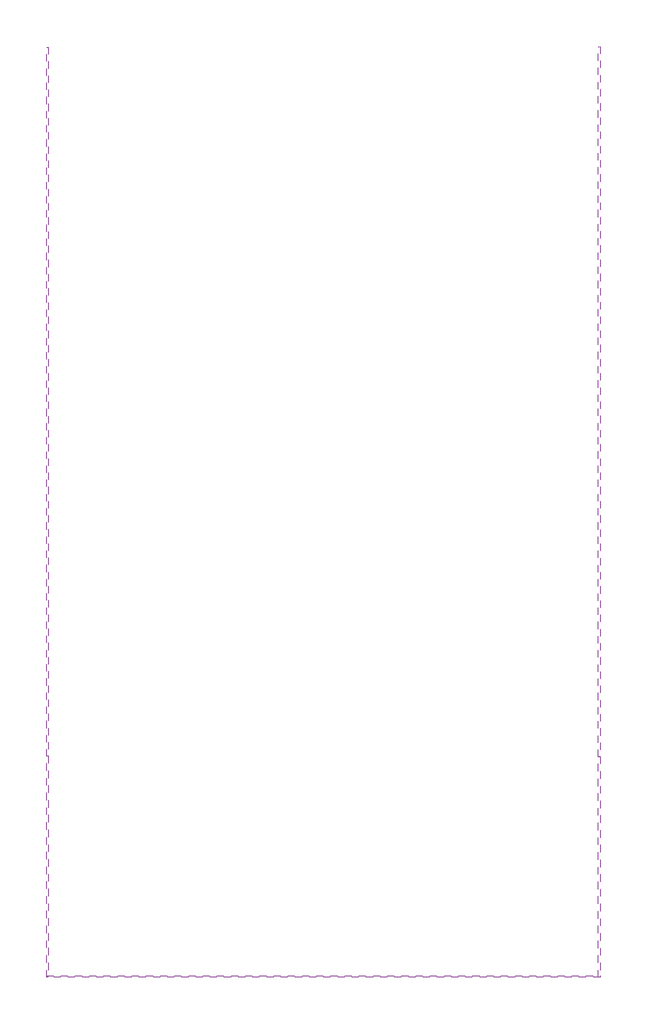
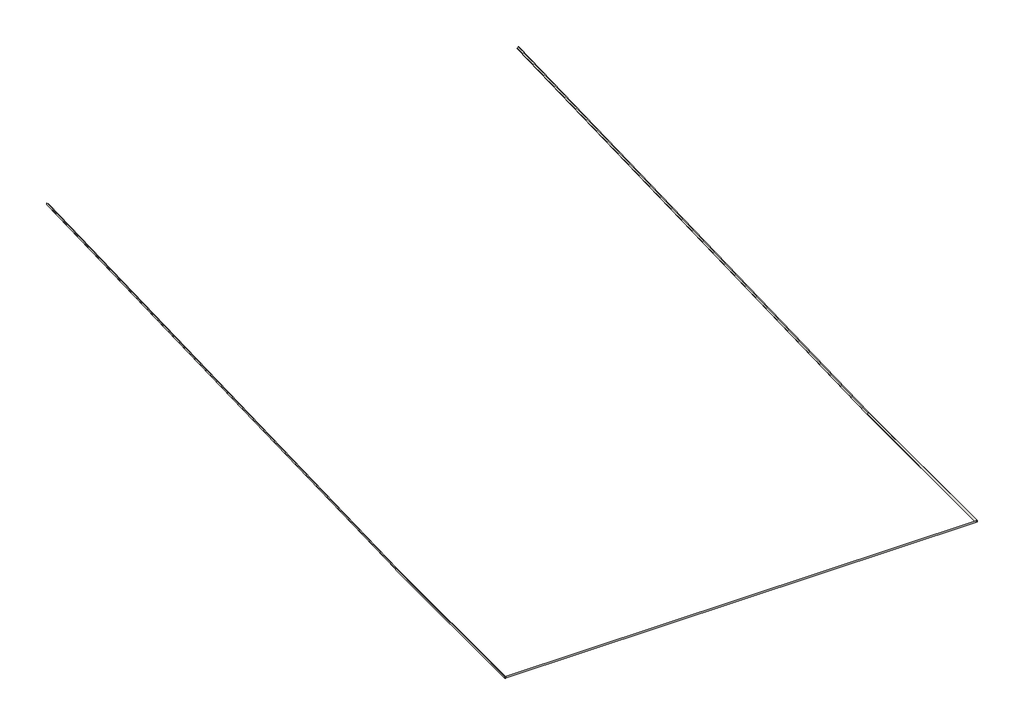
# One storey: 5 slabs.
"""IFC4 building model written with IfcOpenShell, lengths in millimetres."""

from ifc_helpers import new_model, si_unit, origin, place, context, project, spatial, transform, mapped, element, save
from components import pieza_112_aqua_blanco_liso_dd8de30b, pieza_112_aqua_blanco_liso_17d7c7d5, pieza_112_aqua_blanco_liso_f6d43e3e, pieza_112_aqua_blanco_liso_6f53a8a9, pieza_112_aqua_blanco_liso_57a361b8

model = new_model("IFC4")

# Units and contexts
model_context = context("Model", 3, world=origin())
ifc_project = project(units=[si_unit("LENGTHUNIT", "METRE", prefix="MILLI")], contexts=[model_context])

# Site, building, storey
site = spatial("IfcSite", under=ifc_project)
building = spatial("IfcBuilding", under=site)
storey = spatial("IfcBuildingStorey", under=building, Name="4_NFondo2P1 -3.3", Elevation=-3300.0)

# Slabs
placement = place(None, origin())
pieza_112_aqua_blanco_liso_shape = pieza_112_aqua_blanco_liso_dd8de30b(model_context)
element("IfcSlab", 1, ObjectType="ROSA GRES_112 : Pieza 112_Aqua_Blanco_Liso", at=placement, inside=storey, context=model_context, shape_type="MappedRepresentation", body=[
    mapped(pieza_112_aqua_blanco_liso_shape, transform((5690.0411326, 20045.7520744, -1259.6747897), x_axis=(0.0, -0.9994733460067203, -0.032450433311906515), y_axis=(0.9999999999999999, 0.0, 0.0), z_axis=(0.0, -0.0324504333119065, 0.9994733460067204))),
])
pieza_112_aqua_blanco_liso_2_shape = pieza_112_aqua_blanco_liso_17d7c7d5(model_context)
element("IfcSlab", 2, ObjectType="ROSA GRES_112 : Pieza 112_Aqua_Blanco_Liso", at=placement, inside=storey, context=model_context, shape_type="MappedRepresentation", body=[
    mapped(pieza_112_aqua_blanco_liso_2_shape, transform((5690.0411326, 4630.7153038, -1759.9734114), x_axis=(0.0, -1.0, 0.0), y_axis=(1.0, 0.0, 0.0), z_axis=(0.0, 0.0, 1.0))),
])
pieza_112_aqua_blanco_liso_3_shape = pieza_112_aqua_blanco_liso_f6d43e3e(model_context)
element("IfcSlab", 3, ObjectType="ROSA GRES_112 : Pieza 112_Aqua_Blanco_Liso", at=placement, inside=storey, context=model_context, shape_type="MappedRepresentation", body=[
    mapped(pieza_112_aqua_blanco_liso_3_shape, transform((5690.0411326, -164.5807498, -1759.9734114), x_axis=(-1.0, 0.0, 0.0), y_axis=(0.0, -1.0, 0.0), z_axis=(0.0, 0.0, 1.0))),
])
pieza_112_aqua_blanco_liso_4_shape = pieza_112_aqua_blanco_liso_6f53a8a9(model_context)
element("IfcSlab", 4, ObjectType="ROSA GRES_112 : Pieza 112_Aqua_Blanco_Liso", at=placement, inside=storey, context=model_context, shape_type="MappedRepresentation", body=[
    mapped(pieza_112_aqua_blanco_liso_4_shape, transform((-6329.9056903, -164.5807498, -1759.9734114), x_axis=(0.0, 1.0, 0.0), y_axis=(-1.0, 0.0, 0.0), z_axis=(0.0, 0.0, 1.0))),
])
pieza_112_aqua_blanco_liso_5_shape = pieza_112_aqua_blanco_liso_57a361b8(model_context)
element("IfcSlab", 5, ObjectType="ROSA GRES_112 : Pieza 112_Aqua_Blanco_Liso", at=placement, inside=storey, context=model_context, shape_type="MappedRepresentation", body=[
    mapped(pieza_112_aqua_blanco_liso_5_shape, transform((-6329.9056903, 4634.0761756, -1760.0538773), x_axis=(0.0, 0.9994733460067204, 0.03245043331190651), y_axis=(-1.0, 0.0, 0.0), z_axis=(0.0, -0.0324504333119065, 0.9994733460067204))),
])

save(model, "model.ifc")
